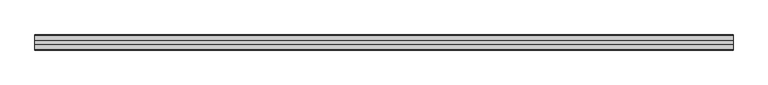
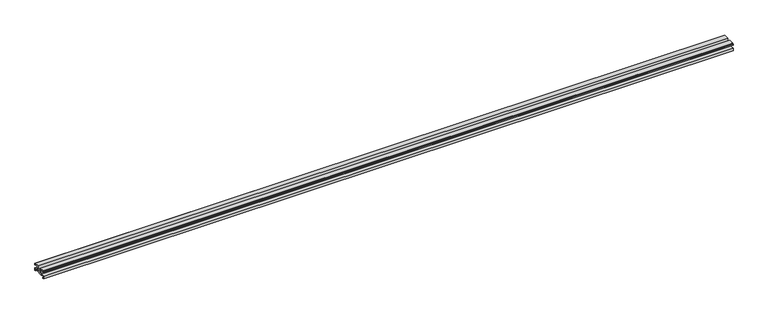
"""IFC4 building model written with IfcOpenShell, lengths in millimetres: proxy geometry, Weiku - Montante - Acoplamento vidro : Weiku - Montante - Acoplamento vidro."""

from ifc_helpers import new_model, si_unit, frame, origin, place, context, project, spatial, polyline, outline, extrude, source, transform, mapped, element, save


def generic_models_486c6c79(model_context):
    return source(origin(), model_context, "Body", "SweptSolid", [
        extrude(outline(polyline([(35.405, 5.1494), (12.495, 5.1494), (12.495, 6.8004), (2.159, 6.8004), (2.159, 2.6094), (4.0216, 2.6094), (4.0216, 0.0), (-0.0014508, 0.0), (-0.0014508, 8.79), (12.954, 8.79), (12.954, 23.3104), (4.3603, 23.3104), (4.3603, 19.204), (0.0, 19.204), (0.0, 22.8024), (0.9736, 22.8024), (0.9736, 20.3894), (3.175, 20.3894), (3.175, 23.9454), (2.3735496, 23.9454), (2.3735496, 25.3), (17.4836, 25.3), (17.4836, 16.283), (15.4516, 16.283), (15.4516, 8.8), (32.4484, 8.8), (32.4484, 16.283), (30.4164, 16.283), (30.4164, 25.3), (45.5264504, 25.3), (45.5264504, 23.9454), (44.725, 23.9454), (44.725, 20.3894), (46.9264, 20.3894), (46.9264, 22.8024), (47.9, 22.8024), (47.9, 19.204), (43.5397, 19.204), (43.5397, 23.3104), (34.946, 23.3104), (34.946, 8.79), (47.9014508, 8.79), (47.9014508, 0.0), (43.8784, 0.0), (43.8784, 2.6094), (45.741, 2.6094), (45.741, 6.8004), (35.405, 6.8004), (35.405, 5.1494)])), frame((-1102.9, 0.0, 0.0), z_axis=(1.0, 0.0, 0.0), x_axis=(0.0, 1.0, 0.0)), (0.0, 0.0, 1.0), 2205.8),
    ])


if __name__ == "__main__":
    model = new_model("IFC4")
    model_context = context("Model", 3, world=origin())
    ifc_project = project(units=[si_unit("LENGTHUNIT", "METRE", prefix="MILLI")], contexts=[model_context])
    site = spatial("IfcSite", under=ifc_project)
    building = spatial("IfcBuilding", under=site)
    placement = place(None, origin())
    generic_models_shape = generic_models_486c6c79(model_context)
    element("IfcBuildingElementProxy", 1, Name="Weiku - Montante - Acoplamento vidro : Weiku - Montante - Acoplamento vidro", ObjectType="Weiku - Montante - Acoplamento vidro : Weiku - Montante - Acoplamento vidro", at=placement, inside=building, context=model_context, shape_type="MappedRepresentation", body=[
        mapped(generic_models_shape, transform((0.0, 0.0, 0.0), x_axis=(1.0, 0.0, 0.0), y_axis=(0.0, 1.0, 0.0), z_axis=(0.0, 0.0, 1.0))),
    ])
    save(model, "model.ifc")
